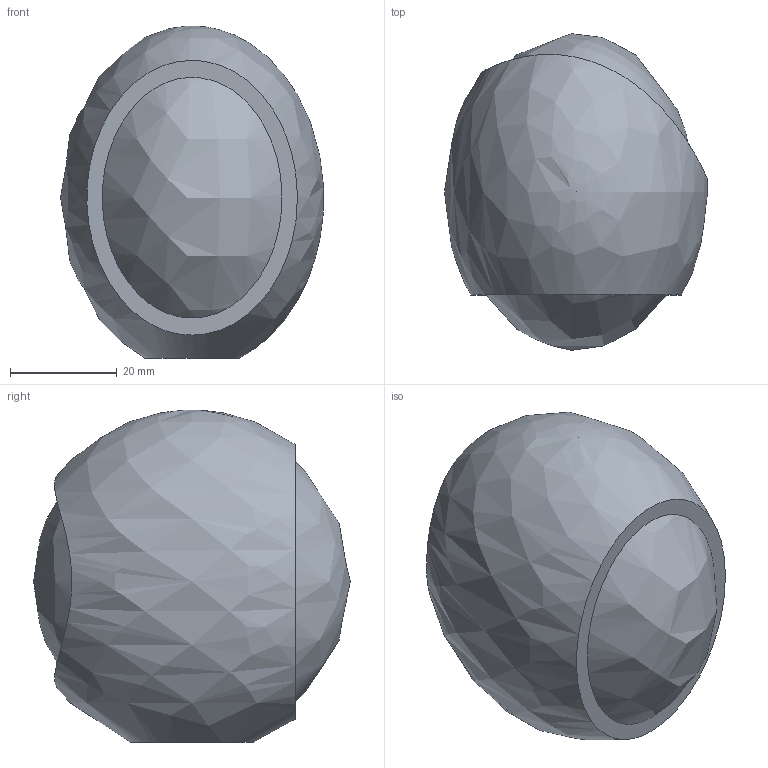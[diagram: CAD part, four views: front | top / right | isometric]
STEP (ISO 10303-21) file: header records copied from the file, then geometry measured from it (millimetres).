
FILE_DESCRIPTION(('FreeCAD Model'),'2;1');
FILE_NAME('Open CASCADE Shape Model','2026-11-20T08:25:35',('FreeCAD'),( 'FreeCAD'),'Open CASCADE STEP processor 7.8','FreeCAD','Unknown');
FILE_SCHEMA(('AUTOMOTIVE_DESIGN { 1 0 10303 214 1 1 1 1 }'));
Length unit declared in the file: millimetre
Products named in the file (1): Open CASCADE STEP translator 7.8 17
Bounding box: 49.4 x 59.46 x 62.35 mm (x, y, z)
Volume: 98017.1 mm3; surface area: 10961.1 mm2
Topology: 1 solids, 1 shells, 6 faces, 7 edges, 6 vertices
Faces by surface type: bspline 4, plane 2
Entity records: 1500 total; most frequent: CARTESIAN_POINT 1418, ORIENTED_EDGE 12, FACE_BOUND 11, EDGE_LOOP 10, VERTEX_POINT 7, DIRECTION 6, EDGE_CURVE 6, ADVANCED_FACE 5
